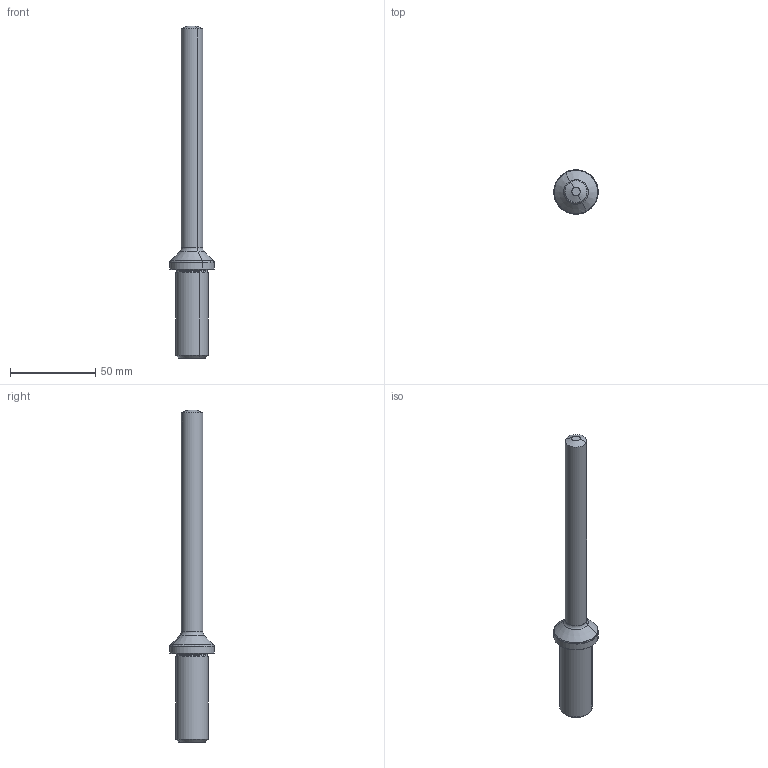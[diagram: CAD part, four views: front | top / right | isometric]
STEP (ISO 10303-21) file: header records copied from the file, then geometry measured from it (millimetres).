
FILE_DESCRIPTION(/* description */ (''),/* implementation_level */ '2;1');
FILE_NAME(/* name */ 'Z00EXHF075I.stp',/* time_stamp */ '2022-06-24T10:28:13+09:00',/* author */ (''),/* organization */ (''),/* preprocessor_version */ 'ST-DEVELOPER v16.7',/* originating_system */ 'SIEMENS PLM Software NX 12.0',/* authorisation */ '');
FILE_SCHEMA (('AUTOMOTIVE_DESIGN { 1 0 10303 214 3 1 1 1 }'));
Length unit declared in the file: millimetre
Products named in the file (1): 12012974095Bycg5
Bounding box: 26.04 x 26.04 x 194.5 mm (x, y, z)
Surface area: 9843.4 mm2 (no closed solid volume)
Topology: 0 solids, 32 shells, 32 faces, 124 edges, 124 vertices
Faces by surface type: cone 12, cylinder 8, torus 8, plane 4
Entity records: 1856 total; most frequent: CARTESIAN_POINT 635, DIRECTION 170, ORIENTED_EDGE 124, VERTEX_POINT 124, EDGE_CURVE 124, AXIS2_PLACEMENT_3D 75, B_SPLINE_CURVE_WITH_KNOTS 64, CIRCLE 40
